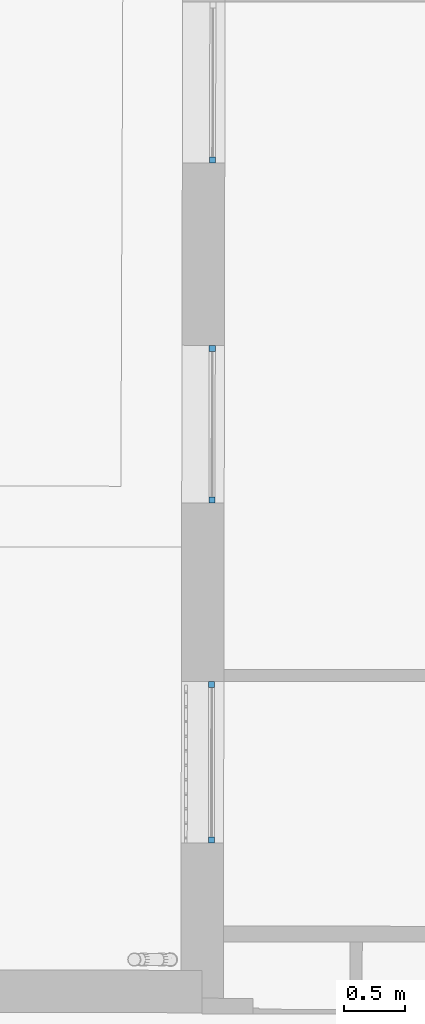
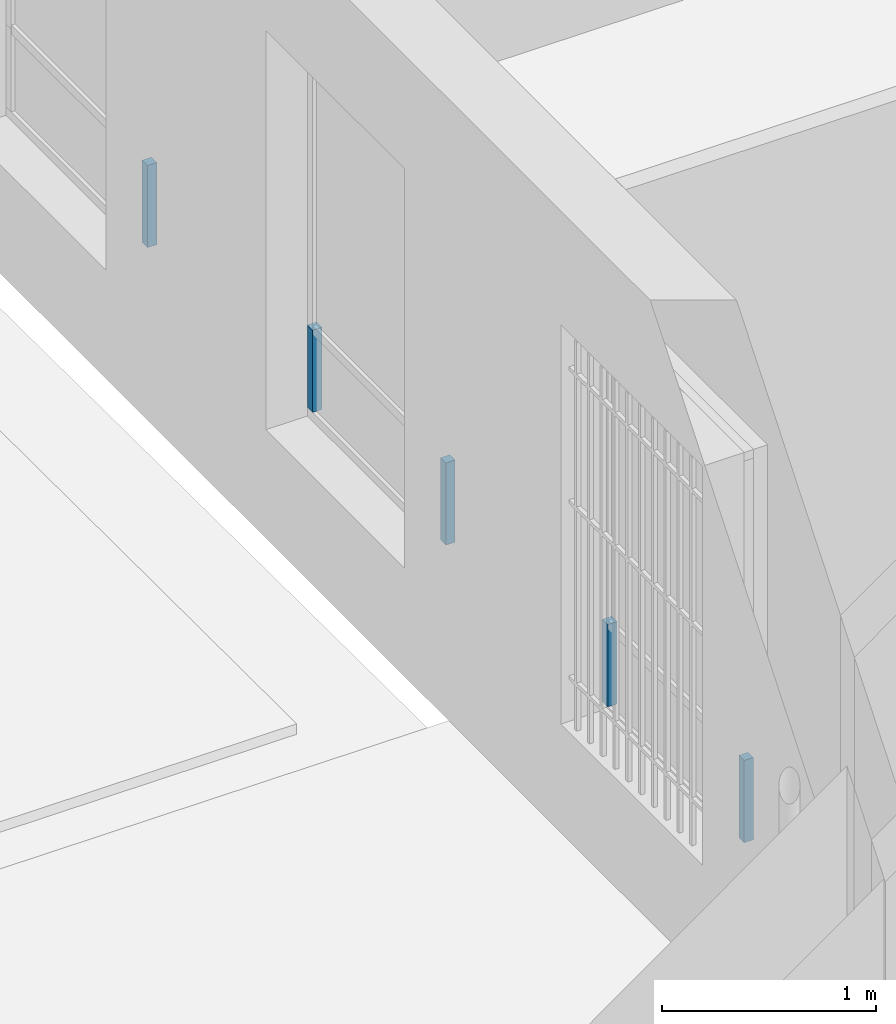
# One storey, part 28 of 101: 5 members, 3 elements without a shape of their own.
"""IFC2X3 building model written with IfcOpenShell, lengths in metres."""

from ifc_helpers import new_model, entity, si_unit, converted_unit, derived_unit, direction, frame, origin, origin_2d_with_axis, place, context, subcontext, project, spatial, rectangle, extrude, source, transform, mapped, material, type_object, type_shapes, element, aggregate, save


model = new_model("IFC2X3")

# Units and contexts
model_context = context("Model", 3, precision=1e-05, world=origin(), true_north=direction((6.123233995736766e-17, 1.0)))
body_context = subcontext(model_context, "Body", "Model", "MODEL_VIEW")
ifc_project = project(units=[si_unit("LENGTHUNIT", "METRE"), si_unit("AREAUNIT", "SQUARE_METRE"), converted_unit("PLANEANGLEUNIT", "DEGREE", entity("IfcPlaneAngleMeasure", 0.017453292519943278), si_unit("PLANEANGLEUNIT", "RADIAN"), dimensions=[0, 0, 0, 0, 0, 0, 0]), derived_unit("THERMALTRANSMITTANCEUNIT", [(si_unit("MASSUNIT", "GRAM", prefix="KILO"), 1), (si_unit("THERMODYNAMICTEMPERATUREUNIT", "KELVIN"), -1), (si_unit("TIMEUNIT", "SECOND"), -3)])], contexts=[model_context])

# Site, building, storey
site_placement = place(None, frame((1253.6752467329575, 2072.143113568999, 91.49999999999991), z_axis=(0.0, 0.0, 1.0), x_axis=(0.7237211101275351, 0.6900925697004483, 0.0)))
site = spatial("IfcSite", under=ifc_project, at=site_placement, Name="Surface", CompositionType="ELEMENT")
building_placement = place(site_placement, origin())
building = spatial("IfcBuilding", under=site, at=building_placement, CompositionType="ELEMENT")
storey_placement = place(building_placement, origin())
storey = spatial("IfcBuildingStorey", under=building, at=storey_placement, Name="0- Rdc", CompositionType="ELEMENT", Elevation=-5.764692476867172e-13)

# Curtain wall, member
curtain_wall_type = type_object("IfcCurtainWallType", Name="Mur-rideau:Menuiserie Ext 1F+1OB VERTIC", PredefinedType="NOTDEFINED")
curtain_wall_1_placement = place(storey_placement, origin())
curtain_wall_1 = element("IfcCurtainWall", 1, at=curtain_wall_1_placement, inside=storey, type_object=curtain_wall_type, Name="Mur-rideau:Menuiserie Ext 1F+1OB VERTIC", ObjectType="Mur-rideau:Menuiserie Ext 1F+1OB VERTIC")
ifc_material = material(Name="OMD_Aluminium Men Ext")
member_type_1 = type_object("IfcMemberType", Name="Meneau rectangulaire:50x50", PredefinedType="MULLION", material=ifc_material)
shared_shape_1 = source(origin(), body_context, "Body", "SweptSolid", [
    extrude(rectangle(XDim=0.05, YDim=0.049999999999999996, at=origin_2d_with_axis()), frame((-0.025, 0.0, -0.4699999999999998), z_axis=(0.0, 0.0, 1.0), x_axis=(-1.0, 0.0, 0.0)), (0.0, 0.0, 1.0), 0.4699999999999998),
])
type_shapes(member_type_1, [shared_shape_1])
member_1_placement = place(curtain_wall_1_placement, frame((179.11754214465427, -9.978150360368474, 0.6699999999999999), z_axis=(0.0, 0.0, -1.0), x_axis=(0.6913353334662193, 0.7225340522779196, 0.0)))
member_1 = element("IfcMember", 2, at=member_1_placement, type_object=member_type_1, material=ifc_material, Name="Meneau rectangulaire:50x50", ObjectType="Meneau rectangulaire:50x50", context=body_context, shape_type="MappedRepresentation", body=[
    mapped(shared_shape_1, transform((0.0, 0.0, 0.0), scale=1.0)),
])

curtain_wall_2_placement = place(storey_placement, origin())
curtain_wall_2 = element("IfcCurtainWall", 3, at=curtain_wall_2_placement, inside=storey, type_object=curtain_wall_type, Name="Mur-rideau:Menuiserie Ext 1F+1OB VERTIC", ObjectType="Mur-rideau:Menuiserie Ext 1F+1OB VERTIC")
member_2_placement = place(curtain_wall_2_placement, frame((177.20250596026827, -11.97960867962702, 0.6699999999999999), z_axis=(0.0, 0.0, -1.0), x_axis=(0.6913353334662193, 0.7225340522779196, 0.0)))
member_2 = element("IfcMember", 4, at=member_2_placement, type_object=member_type_1, material=ifc_material, Name="Meneau rectangulaire:50x50", ObjectType="Meneau rectangulaire:50x50", context=body_context, shape_type="MappedRepresentation", body=[
    mapped(shared_shape_1, transform((0.0, 0.0, 0.0), scale=1.0)),
])

curtain_wall_3_placement = place(storey_placement, origin())
curtain_wall_3 = element("IfcCurtainWall", 5, at=curtain_wall_3_placement, inside=storey, type_object=curtain_wall_type, Name="Mur-rideau:Menuiserie Ext 1F+1OB VERTIC", ObjectType="Mur-rideau:Menuiserie Ext 1F+1OB VERTIC")
member_type_2 = type_object("IfcMemberType", Name="Meneau rectangulaire:50x50", PredefinedType="MULLION", material=ifc_material)
shared_shape_2 = source(origin(), body_context, "Body", "SweptSolid", [
    extrude(rectangle(XDim=0.05, YDim=0.049999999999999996, at=origin_2d_with_axis()), frame((-0.025, 0.0, -0.4699999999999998), z_axis=(0.0, 0.0, 1.0), x_axis=(-1.0, 0.0, 0.0)), (0.0, 0.0, 1.0), 0.4699999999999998),
])
type_shapes(member_type_2, [shared_shape_2])
member_3_placement = place(curtain_wall_3_placement, frame((180.15475537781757, -8.894129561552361, 1.14), z_axis=(0.0, 0.0, 1.0), x_axis=(-0.6913353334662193, -0.7225340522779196, 0.0)))
member_3 = element("IfcMember", 6, at=member_3_placement, type_object=member_type_2, material=ifc_material, Name="Meneau rectangulaire:50x50", ObjectType="Meneau rectangulaire:50x50", context=body_context, shape_type="MappedRepresentation", body=[
    mapped(shared_shape_2, transform((0.0, 0.0, 0.0), scale=1.0)),
])
aggregate(curtain_wall_3, [member_3])

# Member
member_4_placement = place(curtain_wall_1_placement, frame((178.2190164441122, -10.917224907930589, 1.14), z_axis=(0.0, 0.0, 1.0), x_axis=(-0.6913353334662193, -0.7225340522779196, 0.0)))
member_4 = element("IfcMember", 7, at=member_4_placement, type_object=member_type_2, material=ifc_material, Name="Meneau rectangulaire:50x50", ObjectType="Meneau rectangulaire:50x50", context=body_context, shape_type="MappedRepresentation", body=[
    mapped(shared_shape_2, transform((0.0, 0.0, 0.0), scale=1.0)),
])

aggregate(curtain_wall_1, [member_1, member_4])

member_5_placement = place(curtain_wall_2_placement, frame((176.28327751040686, -12.940320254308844, 1.14), z_axis=(0.0, 0.0, 1.0), x_axis=(-0.6913353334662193, -0.7225340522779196, 0.0)))
member_5 = element("IfcMember", 8, at=member_5_placement, type_object=member_type_2, material=ifc_material, Name="Meneau rectangulaire:50x50", ObjectType="Meneau rectangulaire:50x50", context=body_context, shape_type="MappedRepresentation", body=[
    mapped(shared_shape_2, transform((0.0, 0.0, 0.0), scale=1.0)),
])

aggregate(curtain_wall_2, [member_2, member_5])

save(model, "model.ifc")
